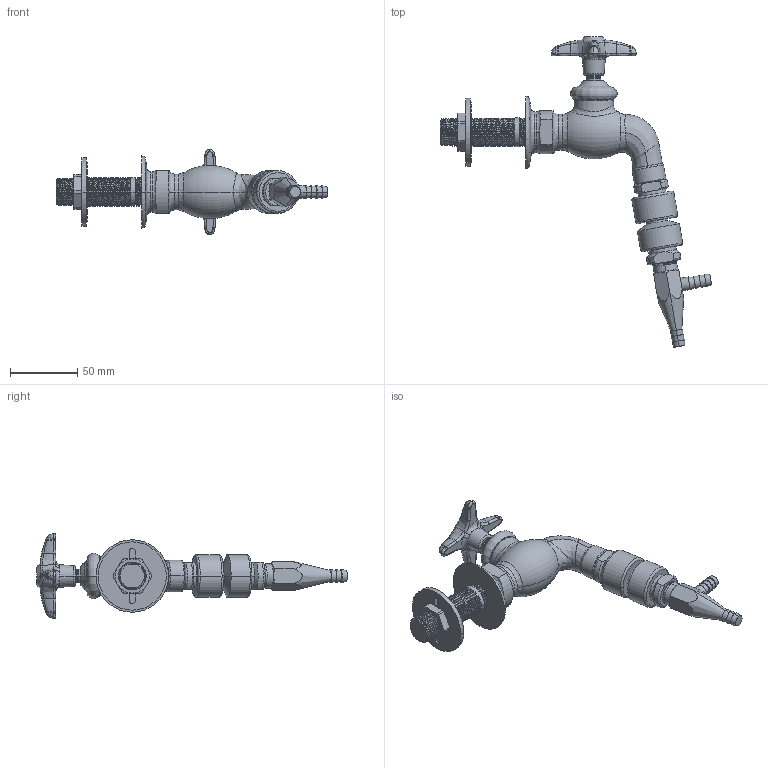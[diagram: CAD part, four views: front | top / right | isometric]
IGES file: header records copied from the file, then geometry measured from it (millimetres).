
Start section:  PTC IGES file: LWV4-C62.igs
Global section: file name: LWV4-C62.igs; native system: Creo Parametric by PTC Inc.; preprocessor: 2014500; author: usch_engrender; organization: Unknown; date: 20150915.132528; units: inch
Bounding box: 202.04 x 231.23 x 63.41 mm (x, y, z)
Volume: 200083.7 mm3; surface area: 44196.7 mm2
Topology: 1 solids, 2 shells, 472 faces, 1140 edges, 691 vertices
Faces by surface type: bspline 256, revolution 216
